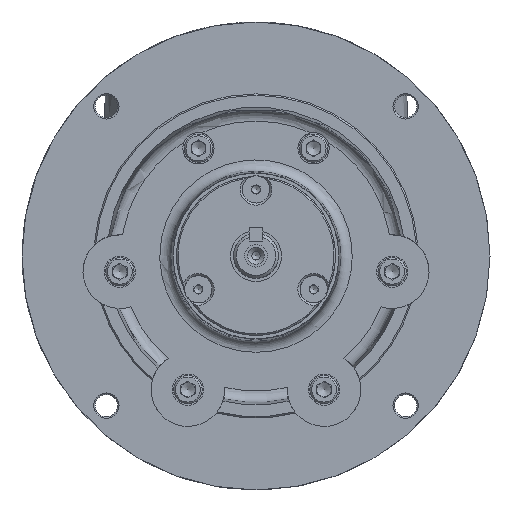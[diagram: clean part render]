
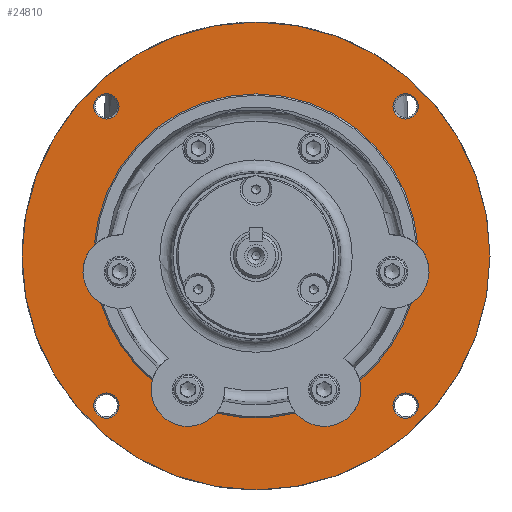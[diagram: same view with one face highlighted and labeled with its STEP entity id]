
A CAD part, top view. The second image highlights one B-rep face of the part: STEP entity #24810.
In plain terms, the highlighted planar face has unit normal (0, 0, 1).
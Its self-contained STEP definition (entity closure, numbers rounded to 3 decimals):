
#41 = CIRCLE ( 'NONE', #24386, 57.15 ) ;
#143 = EDGE_CURVE ( 'NONE', #10233, #481, #41, .T. ) ;
#289 = CARTESIAN_POINT ( 'NONE',  ( 52.761, -47.26, 65.3 ) ) ;
#392 = CARTESIAN_POINT ( 'NONE',  ( 52.761, 58.262, 65.3 ) ) ;
#401 = DIRECTION ( 'NONE',  ( 0., 0., -1. ) ) ;
#424 = CARTESIAN_POINT ( 'NONE',  ( 57.23, 58.262, 65.3 ) ) ;
#481 = VERTEX_POINT ( 'NONE', #19401 ) ;
#930 = AXIS2_PLACEMENT_3D ( 'NONE', #12838, #15262, #25393 ) ;
#936 = CIRCLE ( 'NONE', #3946, 13. ) ;
#1483 = AXIS2_PLACEMENT_3D ( 'NONE', #7018, #15192, #23328 ) ;
#2259 = AXIS2_PLACEMENT_3D ( 'NONE', #18043, #14162, #17794 ) ;
#2636 = ORIENTED_EDGE ( 'NONE', *, *, #14579, .T. ) ;
#2642 = AXIS2_PLACEMENT_3D ( 'NONE', #289, #16890, #12347 ) ;
#3111 = VERTEX_POINT ( 'NONE', #25419 ) ;
#3131 = DIRECTION ( 'NONE',  ( 0., 0., -1. ) ) ;
#3177 = ORIENTED_EDGE ( 'NONE', *, *, #5310, .T. ) ;
#3946 = AXIS2_PLACEMENT_3D ( 'NONE', #22075, #24183, #6136 ) ;
#4087 = VERTEX_POINT ( 'NONE', #24398 ) ;
#4226 = CARTESIAN_POINT ( 'NONE',  ( 0., 5.501, 65.3 ) ) ;
#5143 = CARTESIAN_POINT ( 'NONE',  ( 57.23, -47.26, 65.3 ) ) ;
#5310 = EDGE_CURVE ( 'NONE', #17055, #17055, #6537, .T. ) ;
#5393 = PLANE ( 'NONE',  #19492 ) ;
#5417 = VERTEX_POINT ( 'NONE', #26228 ) ;
#5555 = CARTESIAN_POINT ( 'NONE',  ( -48.292, 58.262, 65.3 ) ) ;
#5647 = EDGE_CURVE ( 'NONE', #15307, #10233, #936, .T. ) ;
#5685 = VERTEX_POINT ( 'NONE', #8063 ) ;
#6136 = DIRECTION ( 'NONE',  ( 1., 0., 0. ) ) ;
#6237 = EDGE_CURVE ( 'NONE', #4087, #17905, #25294, .T. ) ;
#6439 = DIRECTION ( 'NONE',  ( 1., 0., 0. ) ) ;
#6537 = CIRCLE ( 'NONE', #2642, 4.469 ) ;
#6692 = ORIENTED_EDGE ( 'NONE', *, *, #5647, .T. ) ;
#7018 = CARTESIAN_POINT ( 'NONE',  ( 0., 5.501, 65.3 ) ) ;
#7583 = EDGE_LOOP ( 'NONE', ( #3177 ) ) ;
#7825 = EDGE_LOOP ( 'NONE', ( #25245, #24491, #9183, #12188, #13539, #10845, #20150, #6692 ) ) ;
#7897 = CIRCLE ( 'NONE', #9616, 4.469 ) ;
#8063 = CARTESIAN_POINT ( 'NONE',  ( 82.5, 5.501, 65.3 ) ) ;
#8346 = AXIS2_PLACEMENT_3D ( 'NONE', #9020, #17172, #18918 ) ;
#8569 = DIRECTION ( 'NONE',  ( 0., 0., -1. ) ) ;
#8802 = AXIS2_PLACEMENT_3D ( 'NONE', #9418, #13964, #22121 ) ;
#9020 = CARTESIAN_POINT ( 'NONE',  ( -52.761, 58.262, 65.3 ) ) ;
#9086 = CIRCLE ( 'NONE', #16337, 82.5 ) ;
#9165 = CIRCLE ( 'NONE', #24926, 57.15 ) ;
#9183 = ORIENTED_EDGE ( 'NONE', *, *, #13688, .T. ) ;
#9209 = CIRCLE ( 'NONE', #8346, 4.469 ) ;
#9381 = EDGE_LOOP ( 'NONE', ( #2636 ) ) ;
#9418 = CARTESIAN_POINT ( 'NONE',  ( -52.761, -47.26, 65.3 ) ) ;
#9546 = CARTESIAN_POINT ( 'NONE',  ( 0., 5.501, 65.3 ) ) ;
#9616 = AXIS2_PLACEMENT_3D ( 'NONE', #392, #8569, #24871 ) ;
#9629 = EDGE_CURVE ( 'NONE', #19989, #19989, #9209, .T. ) ;
#9805 = DIRECTION ( 'NONE',  ( 1., 0., 0. ) ) ;
#10233 = VERTEX_POINT ( 'NONE', #16164 ) ;
#10329 = CARTESIAN_POINT ( 'NONE',  ( 0., 5.501, 65.3 ) ) ;
#10845 = ORIENTED_EDGE ( 'NONE', *, *, #20365, .T. ) ;
#11332 = CIRCLE ( 'NONE', #1483, 57.15 ) ;
#11403 = FACE_BOUND ( 'NONE', #20824, .T. ) ;
#11696 = ORIENTED_EDGE ( 'NONE', *, *, #17614, .T. ) ;
#11720 = ORIENTED_EDGE ( 'NONE', *, *, #9629, .T. ) ;
#12188 = ORIENTED_EDGE ( 'NONE', *, *, #6237, .T. ) ;
#12347 = DIRECTION ( 'NONE',  ( 1., 0., 0. ) ) ;
#12480 = CIRCLE ( 'NONE', #930, 13. ) ;
#12838 = CARTESIAN_POINT ( 'NONE',  ( -24., -41.568, 65.3 ) ) ;
#12912 = AXIS2_PLACEMENT_3D ( 'NONE', #15815, #23693, #9805 ) ;
#13539 = ORIENTED_EDGE ( 'NONE', *, *, #17314, .T. ) ;
#13688 = EDGE_CURVE ( 'NONE', #5417, #4087, #9165, .T. ) ;
#13908 = DIRECTION ( 'NONE',  ( 0., 0., 1. ) ) ;
#13964 = DIRECTION ( 'NONE',  ( 0., 0., -1. ) ) ;
#14162 = DIRECTION ( 'NONE',  ( 0., 0., -1. ) ) ;
#14200 = CIRCLE ( 'NONE', #12912, 13. ) ;
#14579 = EDGE_CURVE ( 'NONE', #5685, #5685, #9086, .T. ) ;
#14666 = DIRECTION ( 'NONE',  ( 1., 0., 0. ) ) ;
#15192 = DIRECTION ( 'NONE',  ( 0., 0., -1. ) ) ;
#15262 = DIRECTION ( 'NONE',  ( 0., 0., -1. ) ) ;
#15307 = VERTEX_POINT ( 'NONE', #20235 ) ;
#15539 = FACE_BOUND ( 'NONE', #17233, .T. ) ;
#15646 = CIRCLE ( 'NONE', #8802, 4.469 ) ;
#15799 = CARTESIAN_POINT ( 'NONE',  ( 0., 5.501, 65.3 ) ) ;
#15815 = CARTESIAN_POINT ( 'NONE',  ( 48., 0.001, 65.3 ) ) ;
#16164 = CARTESIAN_POINT ( 'NONE',  ( 14.023, -49.902, 65.3 ) ) ;
#16284 = CARTESIAN_POINT ( 'NONE',  ( 0., 5.501, 65.3 ) ) ;
#16337 = AXIS2_PLACEMENT_3D ( 'NONE', #16284, #13908, #22067 ) ;
#16363 = VERTEX_POINT ( 'NONE', #424 ) ;
#16567 = EDGE_LOOP ( 'NONE', ( #22832 ) ) ;
#16767 = CIRCLE ( 'NONE', #18040, 57.15 ) ;
#16890 = DIRECTION ( 'NONE',  ( 0., 0., -1. ) ) ;
#17055 = VERTEX_POINT ( 'NONE', #5143 ) ;
#17172 = DIRECTION ( 'NONE',  ( 0., 0., -1. ) ) ;
#17233 = EDGE_LOOP ( 'NONE', ( #11720 ) ) ;
#17314 = EDGE_CURVE ( 'NONE', #17905, #26224, #11332, .T. ) ;
#17559 = DIRECTION ( 'NONE',  ( 1., 0., 0. ) ) ;
#17614 = EDGE_CURVE ( 'NONE', #16363, #16363, #7897, .T. ) ;
#17679 = FACE_BOUND ( 'NONE', #7583, .T. ) ;
#17794 = DIRECTION ( 'NONE',  ( 1., 0., 0. ) ) ;
#17815 = FACE_OUTER_BOUND ( 'NONE', #9381, .T. ) ;
#17905 = VERTEX_POINT ( 'NONE', #22701 ) ;
#18040 = AXIS2_PLACEMENT_3D ( 'NONE', #10329, #401, #6439 ) ;
#18043 = CARTESIAN_POINT ( 'NONE',  ( -48., 0.001, 65.3 ) ) ;
#18918 = DIRECTION ( 'NONE',  ( 1., 0., 0. ) ) ;
#19068 = EDGE_CURVE ( 'NONE', #25760, #15307, #16767, .T. ) ;
#19401 = CARTESIAN_POINT ( 'NONE',  ( -14.023, -49.902, 65.3 ) ) ;
#19492 = AXIS2_PLACEMENT_3D ( 'NONE', #15799, #23933, #24606 ) ;
#19989 = VERTEX_POINT ( 'NONE', #5555 ) ;
#20150 = ORIENTED_EDGE ( 'NONE', *, *, #19068, .T. ) ;
#20235 = CARTESIAN_POINT ( 'NONE',  ( 36.605, -38.387, 65.3 ) ) ;
#20365 = EDGE_CURVE ( 'NONE', #26224, #25760, #14200, .T. ) ;
#20568 = EDGE_CURVE ( 'NONE', #481, #5417, #12480, .T. ) ;
#20824 = EDGE_LOOP ( 'NONE', ( #11696 ) ) ;
#22067 = DIRECTION ( 'NONE',  ( 1., 0., 0. ) ) ;
#22075 = CARTESIAN_POINT ( 'NONE',  ( 24., -41.568, 65.3 ) ) ;
#22121 = DIRECTION ( 'NONE',  ( 1., 0., 0. ) ) ;
#22701 = CARTESIAN_POINT ( 'NONE',  ( -57.019, 9.363, 65.3 ) ) ;
#22832 = ORIENTED_EDGE ( 'NONE', *, *, #24481, .T. ) ;
#23328 = DIRECTION ( 'NONE',  ( 1., 0., 0. ) ) ;
#23417 = CARTESIAN_POINT ( 'NONE',  ( 54.668, -11.159, 65.3 ) ) ;
#23693 = DIRECTION ( 'NONE',  ( 0., 0., -1. ) ) ;
#23933 = DIRECTION ( 'NONE',  ( 0., 0., 1. ) ) ;
#24183 = DIRECTION ( 'NONE',  ( 0., 0., -1. ) ) ;
#24386 = AXIS2_PLACEMENT_3D ( 'NONE', #9546, #3131, #17559 ) ;
#24398 = CARTESIAN_POINT ( 'NONE',  ( -54.668, -11.159, 65.3 ) ) ;
#24481 = EDGE_CURVE ( 'NONE', #3111, #3111, #15646, .T. ) ;
#24491 = ORIENTED_EDGE ( 'NONE', *, *, #20568, .T. ) ;
#24606 = DIRECTION ( 'NONE',  ( 1., 0., 0. ) ) ;
#24795 = DIRECTION ( 'NONE',  ( 0., 0., -1. ) ) ;
#24810 = ADVANCED_FACE ( 'NONE', ( #17815, #11403, #15539, #25822, #17679, #25949 ), #5393, .T. ) ;
#24871 = DIRECTION ( 'NONE',  ( 1., 0., 0. ) ) ;
#24926 = AXIS2_PLACEMENT_3D ( 'NONE', #4226, #24795, #14666 ) ;
#25245 = ORIENTED_EDGE ( 'NONE', *, *, #143, .T. ) ;
#25294 = CIRCLE ( 'NONE', #2259, 13. ) ;
#25393 = DIRECTION ( 'NONE',  ( 1., 0., 0. ) ) ;
#25419 = CARTESIAN_POINT ( 'NONE',  ( -48.292, -47.26, 65.3 ) ) ;
#25755 = CARTESIAN_POINT ( 'NONE',  ( 57.019, 9.363, 65.3 ) ) ;
#25760 = VERTEX_POINT ( 'NONE', #23417 ) ;
#25822 = FACE_BOUND ( 'NONE', #16567, .T. ) ;
#25949 = FACE_BOUND ( 'NONE', #7825, .T. ) ;
#26224 = VERTEX_POINT ( 'NONE', #25755 ) ;
#26228 = CARTESIAN_POINT ( 'NONE',  ( -36.605, -38.387, 65.3 ) ) ;
